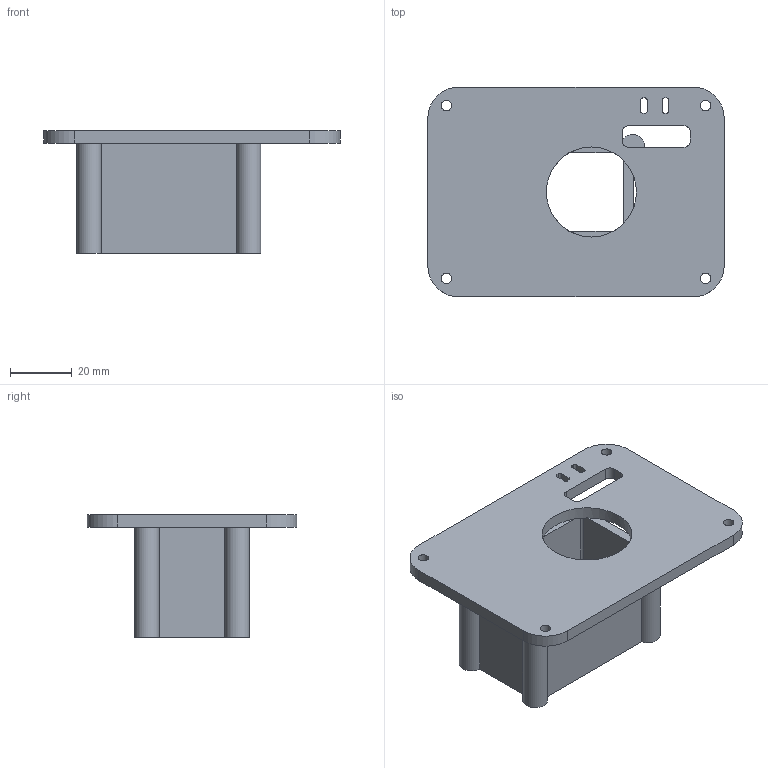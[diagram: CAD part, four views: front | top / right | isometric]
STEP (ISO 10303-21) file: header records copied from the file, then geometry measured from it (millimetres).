
FILE_DESCRIPTION(/* description */ ('Replaceable STS3215 C001 case cradle. Body dimensions from manufacturer; fit, shaft height and structural load path remain provisional. A separate bearing-supported rotating stage is still required.'),/* implementation_level */ '2;1');
FILE_NAME(/* name */ '04 Yaw servo carrier.step',/* time_stamp */ '2026-10-02T18:55:15+01:00',/* author */ (''),/* organization */ (''),/* preprocessor_version */ 'ST-DEVELOPER v20.2',/* originating_system */ 'Autodesk Translation Framework v15.15.0.0',/* authorisation */ '');
FILE_SCHEMA (('AUTOMOTIVE_DESIGN { 1 0 10303 214 3 1 1 }'));
Length unit declared in the file: millimetre
Products named in the file (1): 2026-10-02-18-55-15-521
Bounding box: 96 x 68 x 39.7 mm (x, y, z)
Volume: 43209.5 mm3; surface area: 25905.1 mm2
Topology: 1 solids, 1 shells, 71 faces, 191 edges, 124 vertices
Faces by surface type: plane 38, cylinder 33
Full cylindrical faces by diameter (mm): 3.4 x4, 4 x4, 29.2 x1
Entity records: 2317 total; most frequent: DIRECTION 411, CARTESIAN_POINT 387, ORIENTED_EDGE 382, EDGE_CURVE 191, AXIS2_PLACEMENT_3D 148, VERTEX_POINT 124, LINE 115, VECTOR 115
